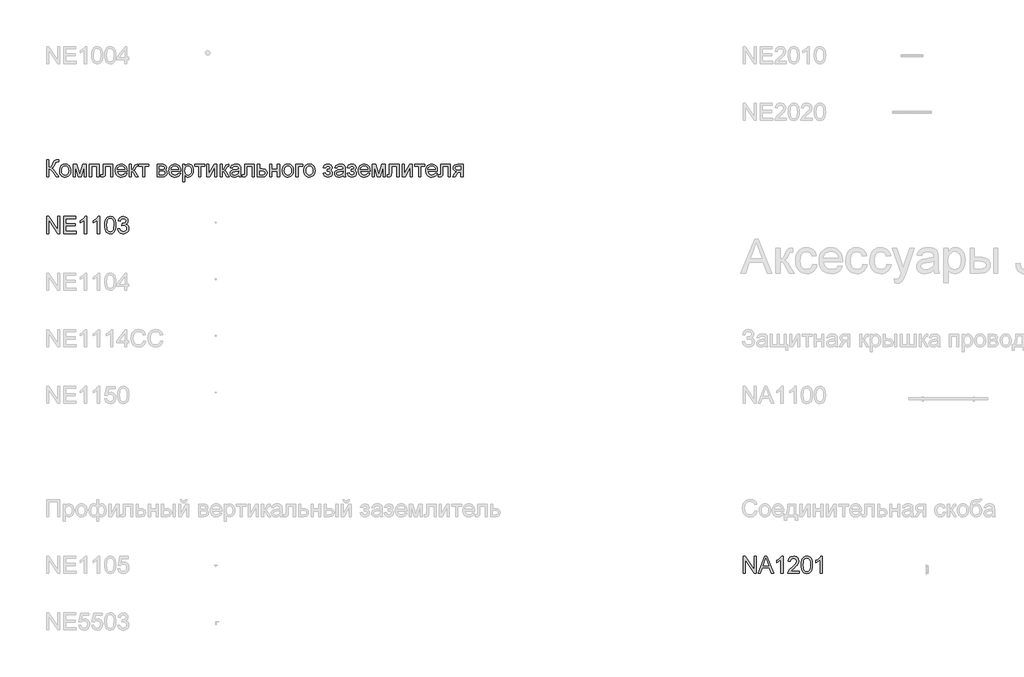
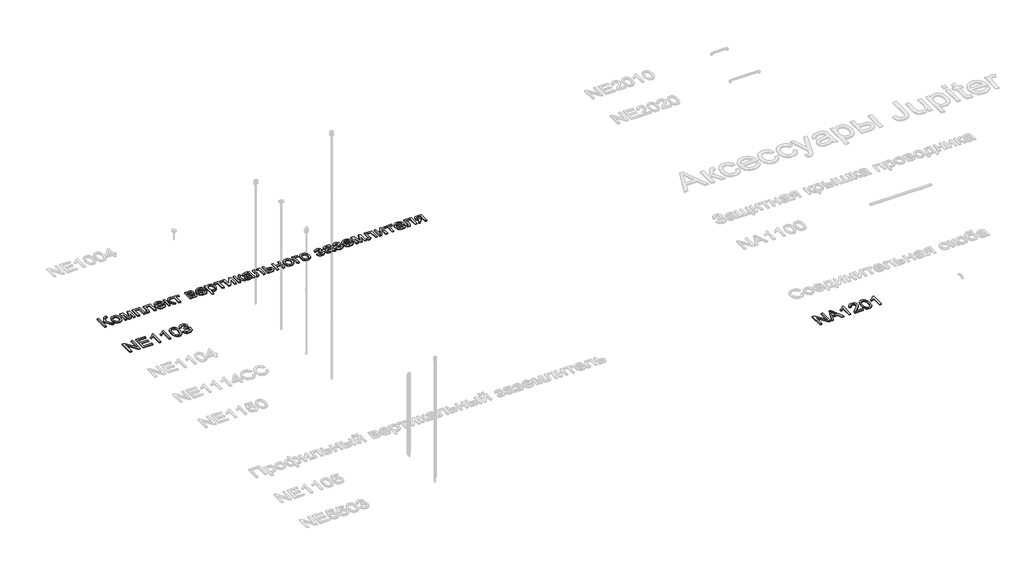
# One storey, part 74 of 124: 3 proxies.
"""IFC4 building model written with IfcOpenShell, lengths in millimetres."""

from ifc_helpers import new_model, si_unit, origin, origin_with_axes, place, context, project, spatial, polyline, outline, extrude, element, save

model = new_model("IFC4")

# Units and contexts
model_context = context("Model", 3, world=origin())
ifc_project = project(units=[si_unit("LENGTHUNIT", "METRE", prefix="MILLI")], contexts=[model_context])

# Site, building, storey
site = spatial("IfcSite", under=ifc_project)
building = spatial("IfcBuilding", under=site)
storey = spatial("IfcBuildingStorey", under=building, Name="Этаж 01", Elevation=0.0)

# Proxies
placement = place(None, origin())
element("IfcBuildingElementProxy", 1, Name="300", ObjectType="300", at=placement, inside=storey, context=model_context, shape_type="SweptSolid", body=[
    extrude(outline(polyline([(32939.8675381, -56773.1294316), (32977.5386545, -56773.1294316), (32977.5386545, -56904.9783386), (33003.0420738, -56902.4859381), (33019.6611429, -56895.0087366), (33033.0980328, -56877.4147801), (33049.0549143, -56844.572115), (33069.840247, -56802.4496266), (33079.8650314, -56791.0360877), (33093.3846947, -56781.5907174), (33109.4335468, -56775.244753), (33127.0458973, -56773.1294316), (33151.7675674, -56773.5708899), (33151.7675674, -56811.2420063), (33143.4534343, -56811.0212771), (33135.1393012, -56810.8005479), (33117.8856356, -56813.0630221), (33105.7087416, -56819.8504449), (33095.2241047, -56834.1058723), (33083.3415163, -56858.6252072), (33068.7641922, -56889.1594128), (33056.6700716, -56905.8612554), (33030.6608146, -56921.459452), (33045.2519342, -56927.6674607), (33059.7418863, -56938.4923884), (33088.4182878, -56973.9930009), (33151.7675674, -57074.498362), (33108.0631863, -57074.498362), (33054.4995678, -56989.5911975), (33033.8154027, -56962.3587328), (33016.7916633, -56945.2614171), (32999.3816479, -56936.2391112), (32977.5386545, -56933.2316759), (32977.5386545, -57074.498362), (32939.8675381, -57074.498362), (32939.8675381, -56773.1294316)])), origin_with_axes(), (0.0, 0.0, 1.0), 20.0),
    extrude(outline(polyline([(33170.6031255, -56963.8394579), (33172.6402721, -56935.1768519), (33178.7517117, -56910.4781745), (33188.9374445, -56889.7434255), (33203.1974703, -56872.972605), (33217.5540652, -56862.2534434), (33233.4005821, -56854.5968994), (33250.7370211, -56850.002973), (33269.5633822, -56848.4716642), (33290.3464157, -56850.336366), (33309.1382879, -56855.9304716), (33325.9389987, -56865.2539809), (33340.7485483, -56878.306894), (33352.8357711, -56894.6477523), (33361.4695017, -56913.8350977), (33366.64974, -56935.8689299), (33368.3764861, -56960.7492491), (33365.3230656, -56998.8066415), (33356.1628039, -57027.7773486), (33341.1624155, -57049.4731893), (33320.588615, -57065.7059823), (33296.1520534, -57075.8319342), (33269.5633822, -57079.2072515), (33248.4768461, -57077.3494475), (33229.51023, -57071.7760352), (33212.6635339, -57062.4870149), (33197.9367578, -57049.4823863), (33185.9782937, -57032.9828788), (33177.4365336, -57013.2092216), (33172.3114775, -56990.1614146), (33170.6031255, -56963.8394579)]), holes=[polyline([(33208.2742418, -56963.7658815), (33212.6336435, -56997.8593454), (33225.7118484, -57022.1487541), (33245.3935351, -57036.6892899), (33269.5633822, -57041.5361352), (33293.6228647, -57036.6616988), (33313.2677633, -57022.0383895), (33326.3459682, -56997.427084), (33330.7053698, -56962.5886591), (33326.318377, -56929.4884766), (33313.1573987, -56905.5301616), (33293.484909, -56890.9896258), (33269.5633822, -56886.1427805), (33245.3935351, -56890.9712317), (33225.7118484, -56905.4565852), (33212.6336435, -56929.6908117), (33208.2742418, -56963.7658815)])]), origin_with_axes(), (0.0, 0.0, 1.0), 20.0),
    extrude(outline(polyline([(33410.756492, -56853.1805537), (33475.5772995, -56853.1805537), (33525.5356745, -57030.3525226), (33579.3935986, -56853.1805537), (33641.4920794, -56853.1805537), (33641.4920794, -57074.498362), (33603.820963, -57074.498362), (33603.820963, -56896.2963235), (33549.6687334, -57074.498362), (33500.2253932, -57074.498362), (33448.4276083, -56887.7614613), (33448.4276083, -57074.498362), (33410.756492, -57074.498362), (33410.756492, -56853.1805537)])), origin_with_axes(), (0.0, 0.0, 1.0), 20.0),
    extrude(outline(polyline([(33697.9987538, -56853.1805537), (33867.5187772, -56853.1805537), (33867.5187772, -57074.498362), (33829.8476609, -57074.498362), (33829.8476609, -56890.85167), (33735.6698701, -56890.85167), (33735.6698701, -57074.498362), (33697.9987538, -57074.498362), (33697.9987538, -56853.1805537)])), origin_with_axes(), (0.0, 0.0, 1.0), 20.0),
    extrude(outline(polyline([(33942.8610098, -56853.1805537), (34112.3810332, -56853.1805537), (34112.3810332, -57074.2776328), (34074.7099169, -57074.2776328), (34074.7099169, -56890.85167), (33980.5321261, -56890.85167), (33980.5321261, -56996.4338026), (33977.9937403, -57045.1413788), (33973.2388656, -57056.1686416), (33964.0510127, -57065.7059823), (33950.1082851, -57072.3002671), (33931.088786, -57074.498362), (33900.481004, -57072.5853756), (33900.481004, -57036.8272457), (33917.3299993, -57036.8272457), (33934.3629357, -57034.5095891), (33941.1687526, -57027.1519492), (33942.8610098, -56994.3000871), (33942.8610098, -56853.1805537)])), origin_with_axes(), (0.0, 0.0, 1.0), 20.0),
    extrude(outline(polyline([(34323.839604, -57008.5739085), (34360.7749563, -57013.282798), (34347.4668251, -57041.1130709), (34326.230837, -57061.9167978), (34297.5452384, -57074.8846381), (34261.888276, -57079.2072515), (34238.5139737, -57077.3425497), (34217.6872543, -57071.7484441), (34199.4081177, -57062.4249348), (34183.6765638, -57049.3720217), (34171.0260217, -57032.9529884), (34161.9899202, -57013.5311184), (34156.5682593, -56991.1064115), (34154.761039, -56965.6788678), (34156.5866534, -56939.3891007), (34162.0634966, -56916.2171336), (34171.1915686, -56896.1629663), (34183.9708694, -56879.226599), (34199.6610365, -56865.771315), (34217.5217074, -56856.1603979), (34237.552882, -56850.3938476), (34259.7545604, -56848.4716642), (34281.2411682, -56850.3892491), (34300.6722354, -56856.1420038), (34318.0477618, -56865.7299283), (34333.3677477, -56879.1530226), (34345.8734363, -56896.0526017), (34354.8060709, -56916.0699808), (34360.1656518, -56939.2051598), (34361.9521787, -56965.4581386), (34361.7314495, -56975.6116817), (34192.4321553, -56975.6116817), (34198.9528637, -57003.8098366), (34214.1004048, -57024.5399871), (34235.9617924, -57037.2870982), (34262.62404, -57041.5361352), (34282.6736087, -57039.5679666), (34299.5593923, -57033.6634605), (34313.2813907, -57023.4547352), (34323.839604, -57008.5739085)]), holes=[polyline([(34192.4321553, -56937.9405654), (34324.2810624, -56937.9405654), (34319.1858968, -56918.0381495), (34309.1979006, -56903.8011162), (34287.2353455, -56890.5573644), (34259.6074076, -56886.1427805), (34234.2143529, -56889.6652506), (34213.2174881, -56900.2326609), (34198.6217699, -56916.7045772), (34192.4321553, -56937.9405654)])]), origin_with_axes(), (0.0, 0.0, 1.0), 20.0),
    extrude(outline(polyline([(34399.623295, -56853.1805537), (34437.2944113, -56853.1805537), (34437.2944113, -56947.3583445), (34452.6166964, -56945.6660873), (34462.5311162, -56940.5893158), (34471.3051018, -56927.3455639), (34483.2060843, -56901.1523659), (34500.3861735, -56867.1232813), (34515.5429117, -56856.0500333), (34543.0972731, -56853.1805537), (34550.3077602, -56853.1805537), (34550.3077602, -56891.0723992), (34540.1542172, -56890.85167), (34521.7601174, -56894.8247956), (34508.8106712, -56919.620042), (34493.6171448, -56946.4386395), (34472.3167773, -56959.5720267), (34484.254548, -56964.874126), (34496.0819541, -56974.2321242), (34519.4056726, -57005.1158177), (34559.7255393, -57074.498362), (34516.9040751, -57074.498362), (34477.3935488, -57006.5873457), (34457.5279211, -56977.8557619), (34448.2389007, -56972.6410346), (34437.2944113, -56970.9027922), (34437.2944113, -57074.498362), (34399.623295, -57074.498362), (34399.623295, -56853.1805537)])), origin_with_axes(), (0.0, 0.0, 1.0), 20.0),
    extrude(outline(polyline([(34564.4344288, -56853.1805537), (34743.3722313, -56853.1805537), (34743.3722313, -56890.85167), (34672.7388882, -56890.85167), (34672.7388882, -57074.498362), (34635.0677719, -57074.498362), (34635.0677719, -56890.85167), (34564.4344288, -56890.85167), (34564.4344288, -56853.1805537)])), origin_with_axes(), (0.0, 0.0, 1.0), 20.0),
    extrude(outline(polyline([(34894.0566965, -56853.1805537), (34977.0508746, -56853.1805537), (35003.7315163, -56854.4405495), (35022.5578774, -56858.220537), (35036.4086346, -56865.3574477), (35048.1624643, -56876.6882132), (35056.1914889, -56891.4494783), (35058.8678304, -56908.8778878), (35057.2491496, -56922.9217829), (35052.3931073, -56935.0342976), (35044.2813093, -56945.2706141), (35032.8953615, -56953.6859148), (35046.8380891, -56961.5126042), (35058.2056428, -56974.1033655), (35065.7656178, -56990.4649173), (35068.2856094, -57009.6039781), (35061.9028568, -57038.3171678), (35046.7277245, -57058.5322834), (35022.7050302, -57070.5068424), (34989.7795917, -57074.498362), (34894.0566965, -57074.498362), (34894.0566965, -56853.1805537)]), holes=[polyline([(34931.7278128, -56937.9405654), (34968.9574707, -56937.9405654), (34999.6756173, -56936.027579), (35014.6116263, -56928.3756335), (35019.5504421, -56922.0480632), (35021.1967141, -56914.5432705), (35018.3088404, -56903.3044755), (35009.6452194, -56896.0755943), (34993.9918405, -56892.1576511), (34970.1346931, -56890.85167), (34931.7278128, -56890.85167), (34931.7278128, -56937.9405654)]), polyline([(34931.7278128, -57036.8272457), (34977.9337914, -57036.8272457), (35003.115314, -57035.1257915), (35018.9158457, -57030.0214288), (35027.3955257, -57020.7416055), (35030.6144931, -57006.5137693), (35029.0050094, -56997.0867932), (35024.1765582, -56988.3771869), (35016.763736, -56981.562173), (35007.4011392, -56977.8189737), (34974.2549715, -56975.6116817), (34931.7278128, -56975.6116817), (34931.7278128, -57036.8272457)])]), origin_with_axes(), (0.0, 0.0, 1.0), 20.0),
    extrude(outline(polyline([(35270.3264012, -57008.5739085), (35307.2617535, -57013.282798), (35293.9536223, -57041.1130709), (35272.7176342, -57061.9167978), (35244.0320356, -57074.8846381), (35208.3750732, -57079.2072515), (35185.0007709, -57077.3425497), (35164.1740515, -57071.7484441), (35145.8949149, -57062.4249348), (35130.163361, -57049.3720217), (35117.5128189, -57032.9529884), (35108.4767174, -57013.5311184), (35103.0550565, -56991.1064115), (35101.2478362, -56965.6788678), (35103.0734506, -56939.3891007), (35108.5502938, -56916.2171336), (35117.6783658, -56896.1629663), (35130.4576666, -56879.226599), (35146.1478337, -56865.771315), (35164.0085046, -56856.1603979), (35184.0396792, -56850.3938476), (35206.2413576, -56848.4716642), (35227.7279654, -56850.3892491), (35247.1590325, -56856.1420038), (35264.534559, -56865.7299283), (35279.8545449, -56879.1530226), (35292.3602334, -56896.0526017), (35301.2928681, -56916.0699808), (35306.652449, -56939.2051598), (35308.4389759, -56965.4581386), (35308.2182467, -56975.6116817), (35138.9189525, -56975.6116817), (35145.4396609, -57003.8098366), (35160.587202, -57024.5399871), (35182.4485896, -57037.2870982), (35209.1108372, -57041.5361352), (35229.1604059, -57039.5679666), (35246.0461895, -57033.6634605), (35259.7681879, -57023.4547352), (35270.3264012, -57008.5739085)]), holes=[polyline([(35138.9189525, -56937.9405654), (35270.7678596, -56937.9405654), (35265.672694, -56918.0381495), (35255.6846978, -56903.8011162), (35233.7221427, -56890.5573644), (35206.0942048, -56886.1427805), (35180.7011501, -56889.6652506), (35159.7042852, -56900.2326609), (35145.1085671, -56916.7045772), (35138.9189525, -56937.9405654)])]), origin_with_axes(), (0.0, 0.0, 1.0), 20.0),
    extrude(outline(polyline([(35346.1100922, -57159.2583737), (35346.1100922, -56853.1805537), (35383.7812085, -56853.1805537), (35383.7812085, -56890.115906), (35396.0684671, -56871.8965502), (35409.8272538, -56858.8827246), (35425.8669088, -56851.0744293), (35444.9967725, -56848.4716642), (35470.4726007, -56852.1136959), (35492.7478555, -56863.0397912), (35510.8844378, -56880.5877623), (35523.9442487, -56904.0954218), (35531.8353175, -56931.8521184), (35534.4656737, -56962.1472007), (35531.4950266, -56994.3644664), (35522.5830853, -57023.1788237), (35508.0149583, -57047.1279416), (35488.0757541, -57064.7494891), (35464.8532032, -57075.5928109), (35440.4350358, -57079.2072515), (35423.1169908, -57076.7884274), (35407.65675, -57069.5319551), (35394.4221952, -57058.5782687), (35383.7812085, -57045.0678024), (35383.7812085, -57159.2583737), (35346.1100922, -57159.2583737)]), holes=[polyline([(35383.7812085, -56965.6052914), (35387.8555016, -56999.3768586), (35400.0783809, -57022.9948827), (35418.1137957, -57036.9008221), (35439.6256954, -57041.5361352), (35461.4870829, -57036.7352752), (35479.9823502, -57022.3326951), (35492.5915056, -56997.8501483), (35496.7945574, -56962.8093883), (35492.6926732, -56929.2217621), (35480.3870204, -56905.2726442), (35462.3791968, -56890.9252464), (35441.1707998, -56886.1427805), (35419.8796293, -56891.2287491), (35401.1820269, -56906.4866548), (35388.1314131, -56931.4382511), (35383.7812085, -56965.6052914)])]), origin_with_axes(), (0.0, 0.0, 1.0), 20.0),
    extrude(outline(polyline([(35558.0101214, -56853.1805537), (35736.9479239, -56853.1805537), (35736.9479239, -56890.85167), (35666.3145808, -56890.85167), (35666.3145808, -57074.498362), (35628.6434645, -57074.498362), (35628.6434645, -56890.85167), (35558.0101214, -56890.85167), (35558.0101214, -56853.1805537)])), origin_with_axes(), (0.0, 0.0, 1.0), 20.0),
    extrude(outline(polyline([(35769.9101506, -56853.1805537), (35807.581267, -56853.1805537), (35807.581267, -57021.9648131), (35900.1403769, -56853.1805537), (35948.8479531, -56853.1805537), (35948.8479531, -57074.498362), (35911.1768368, -57074.498362), (35911.1768368, -56906.7441722), (35819.206338, -57074.498362), (35769.9101506, -57074.498362), (35769.9101506, -56853.1805537)])), origin_with_axes(), (0.0, 0.0, 1.0), 20.0),
    extrude(outline(polyline([(36005.3546276, -56853.1805537), (36043.0257439, -56853.1805537), (36043.0257439, -56947.3583445), (36058.348029, -56945.6660873), (36068.2624487, -56940.5893158), (36077.0364343, -56927.3455639), (36088.9374169, -56901.1523659), (36106.117506, -56867.1232813), (36121.2742442, -56856.0500333), (36148.8286057, -56853.1805537), (36156.0390928, -56853.1805537), (36156.0390928, -56891.0723992), (36145.8855497, -56890.85167), (36127.49145, -56894.8247956), (36114.5420037, -56919.620042), (36099.3484773, -56946.4386395), (36078.0481098, -56959.5720267), (36089.9858805, -56964.874126), (36101.8132867, -56974.2321242), (36125.1370052, -57005.1158177), (36165.4568719, -57074.498362), (36122.6354076, -57074.498362), (36083.1248813, -57006.5873457), (36063.2592536, -56977.8557619), (36053.9702332, -56972.6410346), (36043.0257439, -56970.9027922), (36043.0257439, -57074.498362), (36005.3546276, -57074.498362), (36005.3546276, -56853.1805537)])), origin_with_axes(), (0.0, 0.0, 1.0), 20.0),
    extrude(outline(polyline([(36330.2680057, -57046.2450248), (36312.2693791, -57061.6776745), (36293.7373236, -57071.7760352), (36274.2487749, -57077.3494475), (36253.3806687, -57079.2072515), (36221.899167, -57074.7374853), (36198.676616, -57061.3281866), (36184.3568094, -57040.9659181), (36179.5835405, -57015.6372428), (36181.3861623, -57000.0206521), (36186.7940276, -56985.8388012), (36195.1357518, -56973.6986953), (36205.7399503, -56964.2073398), (36232.1170894, -56951.8465048), (36264.7114342, -56946.1811221), (36303.2286791, -56940.2214338), (36330.0472765, -56933.2316759), (36330.2680057, -56924.8439664), (36327.6744376, -56908.0317592), (36319.8937334, -56897.0320875), (36302.4929151, -56888.8651072), (36278.2494916, -56886.1427805), (36255.8086899, -56887.9545993), (36240.1369169, -56893.3900558), (36229.4499449, -56903.4424313), (36221.9635463, -56919.1050072), (36184.29243, -56914.3961177), (36190.8315325, -56893.794726), (36200.5896024, -56877.6079182), (36214.4771477, -56865.228689), (36233.4046764, -56856.0500333), (36256.5536509, -56850.3662564), (36283.1055339, -56848.4716642), (36308.572165, -56850.1455272), (36328.7596895, -56855.1671165), (36343.9808071, -56862.7178944), (36354.5482174, -56871.9793237), (36361.5563694, -56883.4296508), (36366.099712, -56897.5471223), (36367.939122, -56930.5093491), (36367.939122, -56977.3775153), (36369.8521084, -57042.8237222), (36377.3569011, -57074.498362), (36339.6857848, -57074.498362), (36330.2680057, -57046.2450248)]), holes=[polyline([(36330.2680057, -56970.9027922), (36269.4939001, -56982.4542868), (36237.0834963, -56988.5611279), (36222.4050047, -56998.4939418), (36217.2546568, -57012.9884924), (36220.059757, -57024.1904992), (36228.4750576, -57033.3691549), (36242.3166177, -57039.4943902), (36261.4004962, -57041.5361352), (36281.6340059, -57039.282858), (36299.5130709, -57032.5230264), (36314.0076215, -57022.5626213), (36324.0875882, -57010.707624), (36328.5573544, -56998.4939418), (36330.0472765, -56981.57137), (36330.2680057, -56970.9027922)])]), origin_with_axes(), (0.0, 0.0, 1.0), 20.0),
    extrude(outline(polyline([(36438.5724651, -56853.1805537), (36608.0924885, -56853.1805537), (36608.0924885, -57074.2776328), (36570.4213721, -57074.2776328), (36570.4213721, -56890.85167), (36476.2435814, -56890.85167), (36476.2435814, -56996.4338026), (36473.7051956, -57045.1413788), (36468.9503208, -57056.1686416), (36459.762468, -57065.7059823), (36445.8197404, -57072.3002671), (36426.8002412, -57074.498362), (36396.1924592, -57072.5853756), (36396.1924592, -57036.8272457), (36413.0414546, -57036.8272457), (36430.074391, -57034.5095891), (36436.8802079, -57027.1519492), (36438.5724651, -56994.3000871), (36438.5724651, -56853.1805537)])), origin_with_axes(), (0.0, 0.0, 1.0), 20.0),
    extrude(outline(polyline([(36664.5991629, -56853.1805537), (36702.2702792, -56853.1805537), (36702.2702792, -56933.2316759), (36745.6803547, -56933.2316759), (36783.3146828, -56937.9497624), (36798.4622239, -56943.8473707), (36811.1633498, -56952.1040222), (36821.2065283, -56962.4346085), (36828.3802272, -56974.554021), (36834.1191863, -57004.1593245), (36829.2355528, -57031.1158777), (36814.5846523, -57053.8601821), (36803.3527552, -57062.8893858), (36789.1915976, -57069.338817), (36752.0815014, -57074.498362), (36664.5991629, -57074.498362), (36664.5991629, -56853.1805537)]), holes=[polyline([(36702.2702792, -57036.8272457), (36737.439798, -57036.8272457), (36764.727445, -57034.84988), (36782.8732244, -57028.9177828), (36793.0543586, -57018.7918309), (36796.44807, -57004.2329009), (36793.9372754, -56991.9272482), (36786.4048915, -56981.0563352), (36770.264069, -56973.4411779), (36741.9279583, -56970.9027922), (36702.2702792, -56970.9027922), (36702.2702792, -57036.8272457)])]), origin_with_axes(), (0.0, 0.0, 1.0), 20.0),
    extrude(outline(polyline([(36881.2080817, -56853.1805537), (36918.879198, -56853.1805537), (36918.879198, -56937.9405654), (37017.7658783, -56937.9405654), (37017.7658783, -56853.1805537), (37055.4369946, -56853.1805537), (37055.4369946, -57074.498362), (37017.7658783, -57074.498362), (37017.7658783, -56975.6116817), (36918.879198, -56975.6116817), (36918.879198, -57074.498362), (36881.2080817, -57074.498362), (36881.2080817, -56853.1805537)])), origin_with_axes(), (0.0, 0.0, 1.0), 20.0),
    extrude(outline(polyline([(37102.52589, -56963.8394579), (37104.5630365, -56935.1768519), (37110.6744762, -56910.4781745), (37120.8602089, -56889.7434255), (37135.1202347, -56872.972605), (37149.4768296, -56862.2534434), (37165.3233466, -56854.5968994), (37182.6597856, -56850.002973), (37201.4861467, -56848.4716642), (37222.2691801, -56850.336366), (37241.0610523, -56855.9304716), (37257.8617632, -56865.2539809), (37272.6713127, -56878.306894), (37284.7585355, -56894.6477523), (37293.3922661, -56913.8350977), (37298.5725045, -56935.8689299), (37300.2992506, -56960.7492491), (37297.24583, -56998.8066415), (37288.0855683, -57027.7773486), (37273.08518, -57049.4731893), (37252.5113794, -57065.7059823), (37228.0748179, -57075.8319342), (37201.4861467, -57079.2072515), (37180.3996106, -57077.3494475), (37161.4329945, -57071.7760352), (37144.5862983, -57062.4870149), (37129.8595222, -57049.4823863), (37117.9010581, -57032.9828788), (37109.359298, -57013.2092216), (37104.234242, -56990.1614146), (37102.52589, -56963.8394579)]), holes=[polyline([(37140.1970063, -56963.7658815), (37144.5564079, -56997.8593454), (37157.6346129, -57022.1487541), (37177.3162996, -57036.6892899), (37201.4861467, -57041.5361352), (37225.5456292, -57036.6616988), (37245.1905277, -57022.0383895), (37258.2687326, -56997.427084), (37262.6281343, -56962.5886591), (37258.2411415, -56929.4884766), (37245.0801631, -56905.5301616), (37225.4076734, -56890.9896258), (37201.4861467, -56886.1427805), (37177.3162996, -56890.9712317), (37157.6346129, -56905.4565852), (37144.5564079, -56929.6908117), (37140.1970063, -56963.7658815)])]), origin_with_axes(), (0.0, 0.0, 1.0), 20.0),
    extrude(outline(polyline([(37342.6792564, -56853.1805537), (37465.1103844, -56853.1805537), (37465.1103844, -56890.85167), (37380.3503727, -56890.85167), (37380.3503727, -57074.498362), (37342.6792564, -57074.498362), (37342.6792564, -56853.1805537)])), origin_with_axes(), (0.0, 0.0, 1.0), 20.0),
    extrude(outline(polyline([(37483.9459426, -56963.8394579), (37485.9830891, -56935.1768519), (37492.0945288, -56910.4781745), (37502.2802615, -56889.7434255), (37516.5402873, -56872.972605), (37530.8968822, -56862.2534434), (37546.7433991, -56854.5968994), (37564.0798382, -56850.002973), (37582.9061993, -56848.4716642), (37603.6892327, -56850.336366), (37622.4811049, -56855.9304716), (37639.2818158, -56865.2539809), (37654.0913653, -56878.306894), (37666.1785881, -56894.6477523), (37674.8123187, -56913.8350977), (37679.9925571, -56935.8689299), (37681.7193032, -56960.7492491), (37678.6658826, -56998.8066415), (37669.5056209, -57027.7773486), (37654.5052326, -57049.4731893), (37633.931432, -57065.7059823), (37609.4948705, -57075.8319342), (37582.9061993, -57079.2072515), (37561.8196632, -57077.3494475), (37542.8530471, -57071.7760352), (37526.0063509, -57062.4870149), (37511.2795748, -57049.4823863), (37499.3211107, -57032.9828788), (37490.7793506, -57013.2092216), (37485.6542946, -56990.1614146), (37483.9459426, -56963.8394579)]), holes=[polyline([(37521.6170589, -56963.7658815), (37525.9764605, -56997.8593454), (37539.0546655, -57022.1487541), (37558.7363522, -57036.6892899), (37582.9061993, -57041.5361352), (37606.9656818, -57036.6616988), (37626.6105803, -57022.0383895), (37639.6887852, -56997.427084), (37644.0481869, -56962.5886591), (37639.6611941, -56929.4884766), (37626.5002157, -56905.5301616), (37606.827726, -56890.9896258), (37582.9061993, -56886.1427805), (37558.7363522, -56890.9712317), (37539.0546655, -56905.4565852), (37525.9764605, -56929.6908117), (37521.6170589, -56963.7658815)])]), origin_with_axes(), (0.0, 0.0, 1.0), 20.0),
    extrude(outline(polyline([(37893.6193324, -56975.6116817), (37893.6193324, -56937.9405654), (37923.3441976, -56936.4690374), (37938.353783, -56928.6331509), (37943.6512837, -56921.2847081), (37945.4171173, -56912.2624021), (37943.0534755, -56901.547839), (37935.96255, -56893.242903), (37925.1376223, -56887.9178111), (37911.5719738, -56886.1427805), (37897.8591724, -56887.908614), (37886.3720571, -56893.2061148), (37877.1106279, -56902.0352827), (37870.0748847, -56914.3961177), (37827.6948789, -56909.6872282), (37838.9336738, -56882.9054189), (37856.0217925, -56863.7755552), (37878.9592349, -56852.2976369), (37907.746001, -56848.4716642), (37939.2366998, -56853.1345685), (37963.0754531, -56867.1232813), (37978.0850385, -56887.5867173), (37983.0882336, -56911.6737909), (37981.3086045, -56924.034626), (37975.969717, -56935.0710858), (37967.0715713, -56944.7831705), (37954.6141672, -56953.17088), (37969.1547031, -56963.6371228), (37979.5197783, -56976.6417513), (37985.7277869, -56992.2215538), (37987.7971232, -57010.4133184), (37982.5456077, -57038.1424238), (37966.7910612, -57060.114176), (37941.6003416, -57074.4339827), (37908.0403066, -57079.2072515), (37875.2160356, -57074.7926676), (37850.0988924, -57061.5489158), (37832.688877, -57039.4759961), (37822.9859893, -57008.5739085), (37865.3659952, -57003.8650189), (37871.7119596, -57019.7943093), (37882.3621433, -57031.6768978), (37896.0841418, -57039.0713259), (37911.6455502, -57041.5361352), (37926.8022884, -57039.1724934), (37939.1631234, -57032.081568), (37947.385286, -57021.3118225), (37950.1260069, -57007.9117209), (37948.4245526, -56997.2983253), (37943.32019, -56988.1196695), (37928.8256393, -56977.5246681), (37900.9769723, -56975.3909525), (37893.6193324, -56975.6116817)])), origin_with_axes(), (0.0, 0.0, 1.0), 20.0),
    extrude(outline(polyline([(38176.1527047, -57046.2450248), (38158.1540781, -57061.6776745), (38139.6220226, -57071.7760352), (38120.1334739, -57077.3494475), (38099.2653677, -57079.2072515), (38067.783866, -57074.7374853), (38044.561315, -57061.3281866), (38030.2415084, -57040.9659181), (38025.4682395, -57015.6372428), (38027.2708612, -57000.0206521), (38032.6787266, -56985.8388012), (38041.0204508, -56973.6986953), (38051.6246493, -56964.2073398), (38078.0017884, -56951.8465048), (38110.5961332, -56946.1811221), (38149.1133781, -56940.2214338), (38175.9319755, -56933.2316759), (38176.1527047, -56924.8439664), (38173.5591366, -56908.0317592), (38165.7784324, -56897.0320875), (38148.3776141, -56888.8651072), (38124.1341906, -56886.1427805), (38101.6933889, -56887.9545993), (38086.0216159, -56893.3900558), (38075.3346439, -56903.4424313), (38067.8482453, -56919.1050072), (38030.177129, -56914.3961177), (38036.7162315, -56893.794726), (38046.4743014, -56877.6079182), (38060.3618467, -56865.228689), (38079.2893754, -56856.0500333), (38102.4383499, -56850.3662564), (38128.9902329, -56848.4716642), (38154.456864, -56850.1455272), (38174.6443885, -56855.1671165), (38189.8655061, -56862.7178944), (38200.4329164, -56871.9793237), (38207.4410684, -56883.4296508), (38211.984411, -56897.5471223), (38213.823821, -56930.5093491), (38213.823821, -56977.3775153), (38215.7368074, -57042.8237222), (38223.2416001, -57074.498362), (38185.5704838, -57074.498362), (38176.1527047, -57046.2450248)]), holes=[polyline([(38176.1527047, -56970.9027922), (38115.3785991, -56982.4542868), (38082.9681953, -56988.5611279), (38068.2897037, -56998.4939418), (38063.1393558, -57012.9884924), (38065.944456, -57024.1904992), (38074.3597566, -57033.3691549), (38088.2013167, -57039.4943902), (38107.2851952, -57041.5361352), (38127.5187049, -57039.282858), (38145.3977699, -57032.5230264), (38159.8923205, -57022.5626213), (38169.9722872, -57010.707624), (38174.4420534, -56998.4939418), (38175.9319755, -56981.57137), (38176.1527047, -56970.9027922)])]), origin_with_axes(), (0.0, 0.0, 1.0), 20.0),
    extrude(outline(polyline([(38317.4193908, -56975.6116817), (38317.4193908, -56937.9405654), (38347.1442561, -56936.4690374), (38362.1538415, -56928.6331509), (38367.4513422, -56921.2847081), (38369.2171758, -56912.2624021), (38366.8535339, -56901.547839), (38359.7626085, -56893.242903), (38348.9376808, -56887.9178111), (38335.3720322, -56886.1427805), (38321.6592308, -56887.908614), (38310.1721155, -56893.2061148), (38300.9106863, -56902.0352827), (38293.8749432, -56914.3961177), (38251.4949373, -56909.6872282), (38262.7337323, -56882.9054189), (38279.8218509, -56863.7755552), (38302.7592933, -56852.2976369), (38331.5460595, -56848.4716642), (38363.0367582, -56853.1345685), (38386.8755115, -56867.1232813), (38401.8850969, -56887.5867173), (38406.8882921, -56911.6737909), (38405.1086629, -56924.034626), (38399.7697755, -56935.0710858), (38390.8716297, -56944.7831705), (38378.4142256, -56953.17088), (38392.9547615, -56963.6371228), (38403.3198367, -56976.6417513), (38409.5278454, -56992.2215538), (38411.5971816, -57010.4133184), (38406.3456661, -57038.1424238), (38390.5911197, -57060.114176), (38365.4004001, -57074.4339827), (38331.8403651, -57079.2072515), (38299.016094, -57074.7926676), (38273.8989508, -57061.5489158), (38256.4889354, -57039.4759961), (38246.7860478, -57008.5739085), (38289.1660536, -57003.8650189), (38295.512018, -57019.7943093), (38306.1622018, -57031.6768978), (38319.8842002, -57039.0713259), (38335.4456086, -57041.5361352), (38350.6023468, -57039.1724934), (38362.9631818, -57032.081568), (38371.1853444, -57021.3118225), (38373.9260653, -57007.9117209), (38372.2246111, -56997.2983253), (38367.1202484, -56988.1196695), (38352.6256978, -56977.5246681), (38324.7770307, -56975.3909525), (38317.4193908, -56975.6116817)])), origin_with_axes(), (0.0, 0.0, 1.0), 20.0),
    extrude(outline(polyline([(38613.6379734, -57008.5739085), (38650.5733257, -57013.282798), (38637.2651945, -57041.1130709), (38616.0292063, -57061.9167978), (38587.3436078, -57074.8846381), (38551.6866454, -57079.2072515), (38528.3123431, -57077.3425497), (38507.4856237, -57071.7484441), (38489.206487, -57062.4249348), (38473.4749332, -57049.3720217), (38460.8243911, -57032.9529884), (38451.7882896, -57013.5311184), (38446.3666287, -56991.1064115), (38444.5594084, -56965.6788678), (38446.3850228, -56939.3891007), (38451.861866, -56916.2171336), (38460.989938, -56896.1629663), (38473.7692388, -56879.226599), (38489.4594059, -56865.771315), (38507.3200768, -56856.1603979), (38527.3512514, -56850.3938476), (38549.5529298, -56848.4716642), (38571.0395376, -56850.3892491), (38590.4706047, -56856.1420038), (38607.8461312, -56865.7299283), (38623.166117, -56879.1530226), (38635.6718056, -56896.0526017), (38644.6044403, -56916.0699808), (38649.9640211, -56939.2051598), (38651.7505481, -56965.4581386), (38651.5298189, -56975.6116817), (38482.2305247, -56975.6116817), (38488.751233, -57003.8098366), (38503.8987742, -57024.5399871), (38525.7601618, -57037.2870982), (38552.4224094, -57041.5361352), (38572.4719781, -57039.5679666), (38589.3577617, -57033.6634605), (38603.0797601, -57023.4547352), (38613.6379734, -57008.5739085)]), holes=[polyline([(38482.2305247, -56937.9405654), (38614.0794318, -56937.9405654), (38608.9842661, -56918.0381495), (38598.99627, -56903.8011162), (38577.0337148, -56890.5573644), (38549.405777, -56886.1427805), (38524.0127223, -56889.6652506), (38503.0158574, -56900.2326609), (38488.4201393, -56916.7045772), (38482.2305247, -56937.9405654)])]), origin_with_axes(), (0.0, 0.0, 1.0), 20.0),
    extrude(outline(polyline([(38689.4216644, -56853.1805537), (38754.2424719, -56853.1805537), (38804.2008469, -57030.3525226), (38858.058771, -56853.1805537), (38920.1572517, -56853.1805537), (38920.1572517, -57074.498362), (38882.4861354, -57074.498362), (38882.4861354, -56896.2963235), (38828.3339057, -57074.498362), (38778.8905656, -57074.498362), (38727.0927807, -56887.7614613), (38727.0927807, -57074.498362), (38689.4216644, -57074.498362), (38689.4216644, -56853.1805537)])), origin_with_axes(), (0.0, 0.0, 1.0), 20.0),
    extrude(outline(polyline([(38995.4994844, -56853.1805537), (39165.0195077, -56853.1805537), (39165.0195077, -57074.2776328), (39127.3483914, -57074.2776328), (39127.3483914, -56890.85167), (39033.1706007, -56890.85167), (39033.1706007, -56996.4338026), (39030.6322149, -57045.1413788), (39025.8773401, -57056.1686416), (39016.6894873, -57065.7059823), (39002.7467597, -57072.3002671), (38983.7272605, -57074.498362), (38953.1194785, -57072.5853756), (38953.1194785, -57036.8272457), (38969.9684739, -57036.8272457), (38987.0014103, -57034.5095891), (38993.8072272, -57027.1519492), (38995.4994844, -56994.3000871), (38995.4994844, -56853.1805537)])), origin_with_axes(), (0.0, 0.0, 1.0), 20.0),
    extrude(outline(polyline([(39221.5261822, -56853.1805537), (39259.1972985, -56853.1805537), (39259.1972985, -57021.9648131), (39351.7564085, -56853.1805537), (39400.4639846, -56853.1805537), (39400.4639846, -57074.498362), (39362.7928683, -57074.498362), (39362.7928683, -56906.7441722), (39270.8223695, -57074.498362), (39221.5261822, -57074.498362), (39221.5261822, -56853.1805537)])), origin_with_axes(), (0.0, 0.0, 1.0), 20.0),
    extrude(outline(polyline([(39438.135101, -56853.1805537), (39617.0729034, -56853.1805537), (39617.0729034, -56890.85167), (39546.4395603, -56890.85167), (39546.4395603, -57074.498362), (39508.768444, -57074.498362), (39508.768444, -56890.85167), (39438.135101, -56890.85167), (39438.135101, -56853.1805537)])), origin_with_axes(), (0.0, 0.0, 1.0), 20.0),
    extrude(outline(polyline([(39804.9870265, -57008.5739085), (39841.9223789, -57013.282798), (39828.6142477, -57041.1130709), (39807.3782595, -57061.9167978), (39778.6926609, -57074.8846381), (39743.0356986, -57079.2072515), (39719.6613963, -57077.3425497), (39698.8346768, -57071.7484441), (39680.5555402, -57062.4249348), (39664.8239864, -57049.3720217), (39652.1734443, -57032.9529884), (39643.1373428, -57013.5311184), (39637.7156819, -56991.1064115), (39635.9084616, -56965.6788678), (39637.734076, -56939.3891007), (39643.2109192, -56916.2171336), (39652.3389912, -56896.1629663), (39665.118292, -56879.226599), (39680.8084591, -56865.771315), (39698.6691299, -56856.1603979), (39718.7003046, -56850.3938476), (39740.901983, -56848.4716642), (39762.3885908, -56850.3892491), (39781.8196579, -56856.1420038), (39799.1951844, -56865.7299283), (39814.5151702, -56879.1530226), (39827.0208588, -56896.0526017), (39835.9534935, -56916.0699808), (39841.3130743, -56939.2051598), (39843.0996012, -56965.4581386), (39842.878872, -56975.6116817), (39673.5795779, -56975.6116817), (39680.1002862, -57003.8098366), (39695.2478274, -57024.5399871), (39717.1092149, -57037.2870982), (39743.7714625, -57041.5361352), (39763.8210313, -57039.5679666), (39780.7068149, -57033.6634605), (39794.4288133, -57023.4547352), (39804.9870265, -57008.5739085)]), holes=[polyline([(39673.5795779, -56937.9405654), (39805.4284849, -56937.9405654), (39800.3333193, -56918.0381495), (39790.3453231, -56903.8011162), (39768.382768, -56890.5573644), (39740.7548302, -56886.1427805), (39715.3617755, -56889.6652506), (39694.3649106, -56900.2326609), (39679.7691924, -56916.7045772), (39673.5795779, -56937.9405654)])]), origin_with_axes(), (0.0, 0.0, 1.0), 20.0),
    extrude(outline(polyline([(39899.6062757, -56853.1805537), (40069.1262991, -56853.1805537), (40069.1262991, -57074.2776328), (40031.4551828, -57074.2776328), (40031.4551828, -56890.85167), (39937.277392, -56890.85167), (39937.277392, -56996.4338026), (39934.7390062, -57045.1413788), (39929.9841315, -57056.1686416), (39920.7962786, -57065.7059823), (39906.853551, -57072.3002671), (39887.8340519, -57074.498362), (39857.2262699, -57072.5853756), (39857.2262699, -57036.8272457), (39874.0752652, -57036.8272457), (39891.1082016, -57034.5095891), (39897.9140185, -57027.1519492), (39899.6062757, -56994.3000871), (39899.6062757, -56853.1805537)])), origin_with_axes(), (0.0, 0.0, 1.0), 20.0),
    extrude(outline(polyline([(40295.1529969, -56853.1805537), (40295.1529969, -57074.498362), (40257.4818806, -57074.498362), (40257.4818806, -56989.7383503), (40236.9540653, -56989.7383503), (40208.9950336, -56994.5208163), (40197.8298151, -57004.9502708), (40182.7282592, -57026.6737026), (40152.7090884, -57074.498362), (40109.1518602, -57074.498362), (40146.9701293, -57014.018562), (40163.6719718, -56992.3135243), (40179.0494392, -56982.675016), (40153.2976996, -56974.7839472), (40135.1979054, -56959.7927559), (40124.4925394, -56939.8535518), (40120.924084, -56917.1184445), (40125.7985204, -56891.3299166), (40140.4218297, -56870.9124659), (40164.2789771, -56857.6135317), (40196.8549278, -56853.1805537), (40295.1529969, -56853.1805537)]), holes=[polyline([(40257.4818806, -56890.85167), (40207.8178113, -56890.85167), (40182.1672391, -56893.0313708), (40167.6083092, -56899.5704733), (40160.8484775, -56909.0342376), (40158.5952003, -56919.987924), (40161.9153353, -56934.3445189), (40171.8757403, -56944.3049239), (40190.2790371, -56950.1266565), (40218.9278475, -56952.067234), (40257.4818806, -56952.067234), (40257.4818806, -56890.85167)])]), origin_with_axes(), (0.0, 0.0, 1.0), 20.0),
])
element("IfcBuildingElementProxy", 2, Name="300", ObjectType="300", at=placement, inside=storey, context=model_context, shape_type="SweptSolid", body=[
    extrude(outline(polyline([(32939.8675381, -58074.498362), (32939.8675381, -57773.1294316), (32980.1874048, -57773.1294316), (33137.6408988, -58011.8848464), (33137.6408988, -57773.1294316), (33175.3120151, -57773.1294316), (33175.3120151, -58074.498362), (33134.9921484, -58074.498362), (32977.5386545, -57835.6693707), (32977.5386545, -58074.498362), (32939.8675381, -58074.498362)])), origin_with_axes(), (0.0, 0.0, 1.0), 20.0),
    extrude(outline(polyline([(33241.2364686, -58074.498362), (33241.2364686, -57773.1294316), (33457.8453874, -57773.1294316), (33457.8453874, -57810.8005479), (33278.9075849, -57810.8005479), (33278.9075849, -57900.2694491), (33448.4276083, -57900.2694491), (33448.4276083, -57937.9405654), (33278.9075849, -57937.9405654), (33278.9075849, -58036.8272457), (33462.5542769, -58036.8272457), (33462.5542769, -58074.498362), (33241.2364686, -58074.498362)])), origin_with_axes(), (0.0, 0.0, 1.0), 20.0),
    extrude(outline(polyline([(33646.2009689, -58074.498362), (33608.5298526, -58074.498362), (33608.5298526, -57839.6424963), (33572.8452991, -57865.0631421), (33533.18762, -57884.0826413), (33533.18762, -57848.4716642), (33562.7745294, -57832.3768269), (33588.4067074, -57813.228569), (33608.612626, -57792.8663006), (33621.9207572, -57773.1294316), (33646.2009689, -57773.1294316), (33646.2009689, -58074.498362)])), origin_with_axes(), (0.0, 0.0, 1.0), 20.0),
    extrude(outline(polyline([(33876.9365563, -58074.498362), (33839.26544, -58074.498362), (33839.26544, -57839.6424963), (33803.5808864, -57865.0631421), (33763.9232073, -57884.0826413), (33763.9232073, -57848.4716642), (33793.5101168, -57832.3768269), (33819.1422948, -57813.228569), (33839.3482134, -57792.8663006), (33852.6563446, -57773.1294316), (33876.9365563, -57773.1294316), (33876.9365563, -58074.498362)])), origin_with_axes(), (0.0, 0.0, 1.0), 20.0),
    extrude(outline(polyline([(33966.4054575, -57926.2419179), (33969.1737695, -57878.0033913), (33977.4787055, -57839.5321317), (33991.2374922, -57810.2395278), (34010.3673559, -57789.5369685), (34035.0062525, -57777.2313158), (34065.2921378, -57773.1294316), (34088.5054917, -57775.5574527), (34109.2908244, -57782.8415162), (34126.6732487, -57794.6965135), (34139.6778772, -57810.8373361), (34149.5003265, -57831.1260281), (34157.336213, -57855.4246339), (34162.4681668, -57886.2807362), (34164.1788181, -57926.2419179), (34161.4380972, -57974.2045331), (34153.2159346, -58012.5838222), (34139.5399215, -58041.9040172), (34120.4376489, -58062.68935), (34095.7435699, -58075.0777761), (34065.2921378, -58079.2072515), (34044.5435933, -58077.4138268), (34026.1494935, -58072.0335526), (34010.1098385, -58063.066429), (33996.4246283, -58050.5124559), (33983.2912411, -58027.8187353), (33973.9102502, -57999.5424055), (33968.2816557, -57965.6834664), (33966.4054575, -57926.2419179)]), holes=[polyline([(34004.0765738, -57926.1683415), (34008.4911577, -57985.4249339), (34014.0093877, -58005.6929326), (34021.7349096, -58019.7207329), (34041.4533845, -58036.0822847), (34065.2921378, -58041.5361352), (34089.1308911, -58036.0638906), (34108.849366, -58019.6471565), (34116.5748879, -58005.5963636), (34122.0931178, -57985.3329634), (34126.5077018, -57926.1683415), (34122.2402706, -57868.2453214), (34116.9059817, -57848.0440013), (34109.4379772, -57833.682808), (34089.7562905, -57816.5211129), (34064.8506794, -57810.8005479), (34041.2694435, -57815.8405312), (34022.3235208, -57830.9604812), (34014.3404815, -57846.595466), (34008.6383105, -57867.6751043), (34004.0765738, -57926.1683415)])]), origin_with_axes(), (0.0, 0.0, 1.0), 20.0),
    extrude(outline(polyline([(34197.1410449, -57994.4472399), (34234.8121612, -57989.7383503), (34243.2458559, -58013.4115567), (34255.5974939, -58029.3960294), (34272.4740804, -58038.5011088), (34294.4826208, -58041.5361352), (34320.3079369, -58037.3606746), (34340.247141, -58024.8342927), (34352.9942521, -58006.1458873), (34357.2432892, -57983.4843564), (34353.0310403, -57961.9724567), (34340.3942938, -57944.5256531), (34321.26443, -57932.9649614), (34297.5728295, -57929.1113975), (34271.1589023, -57933.2316759), (34275.352757, -57895.5605595), (34281.3860218, -57896.0020179), (34303.9555822, -57893.2980853), (34324.1339096, -57885.1862873), (34338.3709428, -57871.4642889), (34343.1166206, -57851.9297549), (34339.6769239, -57835.6601737), (34329.3578339, -57822.4624071), (34313.6124845, -57813.7160127), (34293.8940096, -57810.8005479), (34274.1387465, -57813.7436038), (34257.9887269, -57822.5727717), (34246.1981089, -57837.2880515), (34239.5210507, -57857.8894432), (34201.8499344, -57853.1805537), (34212.9415766, -57819.3538042), (34232.6784456, -57794.0987053), (34259.680984, -57778.37175), (34292.5696344, -57773.1294316), (34316.2520379, -57775.7138026), (34338.0030608, -57783.4669156), (34356.3419783, -57795.698992), (34369.7880652, -57811.7202528), (34378.0378189, -57830.178732), (34380.7877369, -57849.7224629), (34378.1757747, -57867.9326217), (34370.3398882, -57884.4505233), (34357.390442, -57898.5220096), (34339.4378006, -57909.3929226), (34363.0190365, -57918.9210662), (34380.4934313, -57935.1446622), (34391.3091619, -57957.1807937), (34394.9144055, -57984.146544), (34393.1117837, -58003.2580136), (34387.7039184, -58020.8611671), (34378.6908095, -58036.9560044), (34366.0724571, -58051.5425255), (34350.6995882, -58063.6458431), (34333.42293, -58072.29107), (34314.2424825, -58077.4782062), (34293.1582456, -58079.2072515), (34274.1019583, -58077.731125), (34256.7379281, -58073.3027455), (34241.0661551, -58065.922113), (34227.0866393, -58055.5892274), (34215.3649992, -58042.9110942), (34206.4668534, -58028.4947185), (34200.392202, -58012.3401004), (34197.1410449, -57994.4472399)])), origin_with_axes(), (0.0, 0.0, 1.0), 20.0),
])
element("IfcBuildingElementProxy", 3, Name="300", ObjectType="300", at=placement, inside=storey, context=model_context, shape_type="SweptSolid", body=[
    extrude(outline(polyline([(45239.8675381, -64074.498362), (45239.8675381, -63773.1294316), (45280.1874048, -63773.1294316), (45437.6408988, -64011.8848464), (45437.6408988, -63773.1294316), (45475.3120151, -63773.1294316), (45475.3120151, -64074.498362), (45434.9921484, -64074.498362), (45277.5386545, -63835.6693707), (45277.5386545, -64074.498362), (45239.8675381, -64074.498362)])), origin_with_axes(), (0.0, 0.0, 1.0), 20.0),
    extrude(outline(polyline([(45506.1405263, -64074.498362), (45626.4379387, -63773.1294316), (45658.5172487, -63773.1294316), (45778.8146611, -64074.498362), (45739.0098292, -64074.498362), (45704.5024981, -63980.3205712), (45580.3791129, -63980.3205712), (45545.9453581, -64074.498362), (45506.1405263, -64074.498362)]), holes=[polyline([(45594.2114759, -63942.6494549), (45690.7437114, -63942.6494549), (45663.5940202, -63868.5580211), (45642.4775937, -63810.8005479), (45623.7156119, -63862.083298), (45594.2114759, -63942.6494549)])]), origin_with_axes(), (0.0, 0.0, 1.0), 20.0),
    extrude(outline(polyline([(45946.2009689, -64074.498362), (45908.5298526, -64074.498362), (45908.5298526, -63839.6424963), (45872.8452991, -63865.0631421), (45833.18762, -63884.0826413), (45833.18762, -63848.4716642), (45862.7745294, -63832.3768269), (45888.4067074, -63813.228569), (45908.612626, -63792.8663006), (45921.9207572, -63773.1294316), (45946.2009689, -63773.1294316), (45946.2009689, -64074.498362)])), origin_with_axes(), (0.0, 0.0, 1.0), 20.0),
    extrude(outline(polyline([(46228.7343412, -64036.8272457), (46228.7343412, -64074.498362), (46030.9609806, -64074.498362), (46035.0076825, -64048.5258931), (46044.2967029, -64028.2280041), (46057.8899426, -64008.5371203), (46077.5532353, -63987.9265315), (46105.0524144, -63964.8695274), (46145.7033749, -63928.7619096), (46170.0939512, -63902.1088591), (46182.2892393, -63880.4773977), (46186.3543353, -63859.4345476), (46182.5191655, -63840.5713983), (46171.0136561, -63824.8904283), (46153.3277292, -63814.323018), (46130.9513069, -63810.8005479), (46107.4528444, -63814.2402445), (46089.1967004, -63824.5593345), (46077.4152795, -63840.9484774), (46073.3409864, -63862.5983328), (46035.6698701, -63857.8894432), (46044.8025406, -63821.4507316), (46053.3488992, -63806.9147943), (46064.5486067, -63794.8344693), (46078.1441457, -63785.3385153), (46093.8779988, -63778.555691), (46131.7606473, -63773.1294316), (46151.950471, -63774.6377477), (46169.9192072, -63779.1626963), (46185.6668559, -63786.7042772), (46199.193417, -63797.2624904), (46210.0574321, -63810.0555868), (46217.817443, -63824.3018171), (46222.4734495, -63840.0011812), (46224.0254516, -63857.1536793), (46222.3515886, -63875.1707), (46217.3299993, -63892.875021), (46208.418058, -63910.8828446), (46195.0731386, -63929.8103733), (46173.8003623, -63952.4075249), (46141.1048499, -63981.4242172), (46097.7683509, -64017.6605937), (46080.7722027, -64036.8272457), (46228.7343412, -64036.8272457)])), origin_with_axes(), (0.0, 0.0, 1.0), 20.0),
    extrude(outline(polyline([(46266.4054575, -63926.2419179), (46269.1737695, -63878.0033913), (46277.4787055, -63839.5321317), (46291.2374922, -63810.2395278), (46310.3673559, -63789.5369685), (46335.0062525, -63777.2313158), (46365.2921378, -63773.1294316), (46388.5054917, -63775.5574527), (46409.2908244, -63782.8415162), (46426.6732487, -63794.6965135), (46439.6778772, -63810.8373361), (46449.5003265, -63831.1260281), (46457.336213, -63855.4246339), (46462.4681668, -63886.2807362), (46464.1788181, -63926.2419179), (46461.4380972, -63974.2045331), (46453.2159346, -64012.5838222), (46439.5399215, -64041.9040172), (46420.4376489, -64062.68935), (46395.7435699, -64075.0777761), (46365.2921378, -64079.2072515), (46344.5435933, -64077.4138268), (46326.1494935, -64072.0335526), (46310.1098385, -64063.066429), (46296.4246283, -64050.5124559), (46283.2912411, -64027.8187353), (46273.9102502, -63999.5424055), (46268.2816557, -63965.6834664), (46266.4054575, -63926.2419179)]), holes=[polyline([(46304.0765738, -63926.1683415), (46308.4911577, -63985.4249339), (46314.0093877, -64005.6929326), (46321.7349096, -64019.7207329), (46341.4533845, -64036.0822847), (46365.2921378, -64041.5361352), (46389.1308911, -64036.0638906), (46408.849366, -64019.6471565), (46416.5748879, -64005.5963636), (46422.0931178, -63985.3329634), (46426.5077018, -63926.1683415), (46422.2402706, -63868.2453214), (46416.9059817, -63848.0440013), (46409.4379772, -63833.682808), (46389.7562905, -63816.5211129), (46364.8506794, -63810.8005479), (46341.2694435, -63815.8405312), (46322.3235208, -63830.9604812), (46314.3404815, -63846.595466), (46308.6383105, -63867.6751043), (46304.0765738, -63926.1683415)])]), origin_with_axes(), (0.0, 0.0, 1.0), 20.0),
    extrude(outline(polyline([(46638.407731, -64074.498362), (46600.7366147, -64074.498362), (46600.7366147, -63839.6424963), (46565.0520612, -63865.0631421), (46525.3943821, -63884.0826413), (46525.3943821, -63848.4716642), (46554.9812916, -63832.3768269), (46580.6134696, -63813.228569), (46600.8193882, -63792.8663006), (46614.1275193, -63773.1294316), (46638.407731, -63773.1294316), (46638.407731, -64074.498362)])), origin_with_axes(), (0.0, 0.0, 1.0), 20.0),
])

save(model, "model.ifc")
